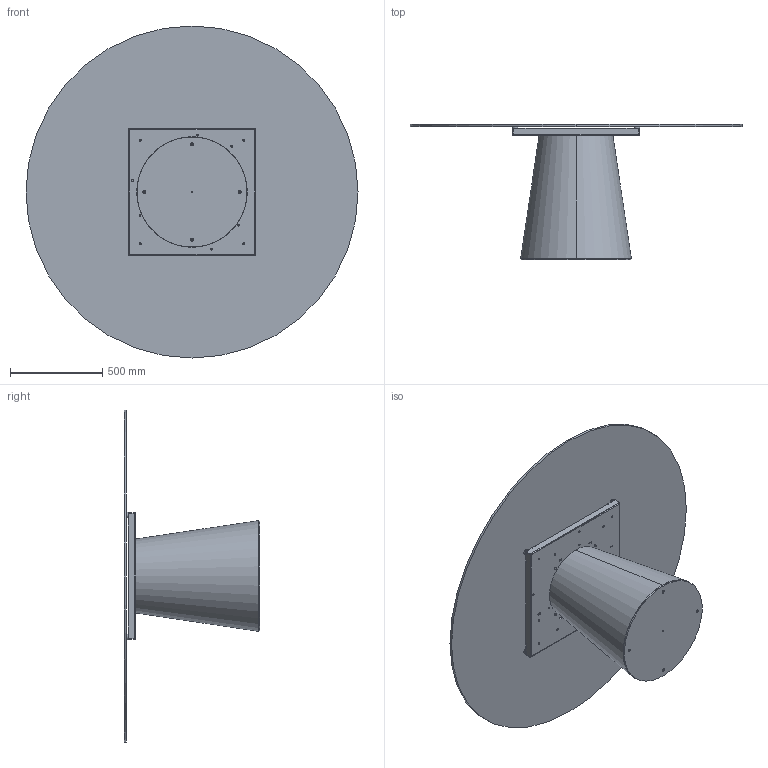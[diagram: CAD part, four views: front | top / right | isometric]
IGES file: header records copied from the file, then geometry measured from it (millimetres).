
Start section: SolidWorks IGES file using analytic representation for surfaces
Global section: file name: Y:\eforma\TECNICO\SOLIDWORKS\E-FORMA\1-TAVOLI\TEO\08 modelli 3D web\TO13G_Teo_d.180_Glass.IGS; native system: SolidWorks 2022; preprocessor: SolidWorks 2022; author: eforma.tech; date: 240802.112619; units: millimetre
Bounding box: 1800 x 735.19 x 1800 mm (x, y, z)
Volume: 60809189.7 mm3; surface area: 9591467.5 mm2
Topology: 28 solids, 28 shells, 836 faces, 2050 edges, 1264 vertices
Faces by surface type: revolution 450, plane 386
